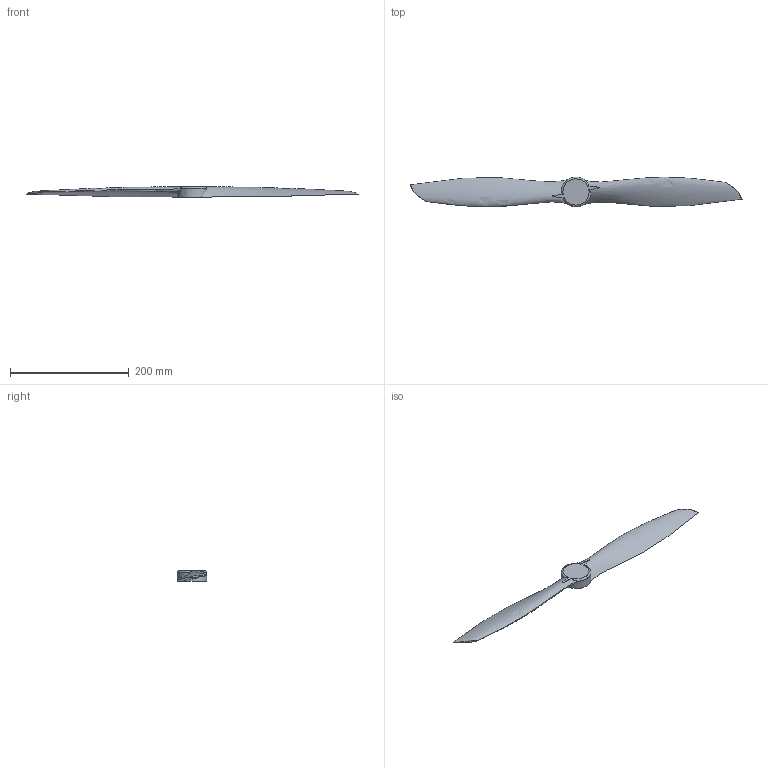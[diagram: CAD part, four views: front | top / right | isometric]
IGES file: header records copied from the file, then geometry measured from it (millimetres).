
Global section: file name: C:\NX6_files\v3_22x8.igs; native system: NX V6.0; preprocessor: SIEMENS UGS NX 6.0; date: 20101229.090054; units: millimetre
Bounding box: 558.8 x 50 x 18 mm (x, y, z)
Surface area: 50161.3 mm2 (no closed solid volume)
Topology: 0 solids, 0 shells, 13 faces, 740 edges, 1281 vertices
Faces by surface type: bspline 13
